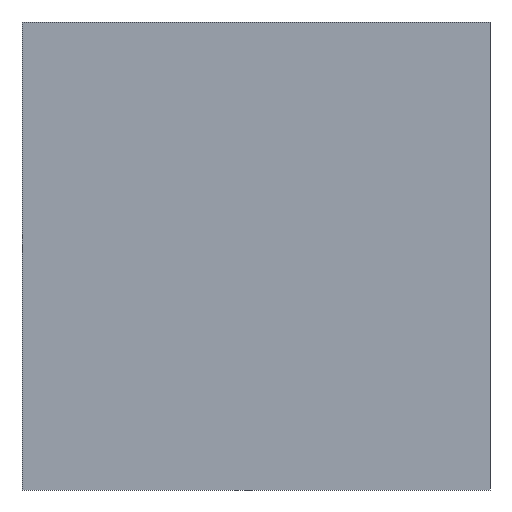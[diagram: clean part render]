
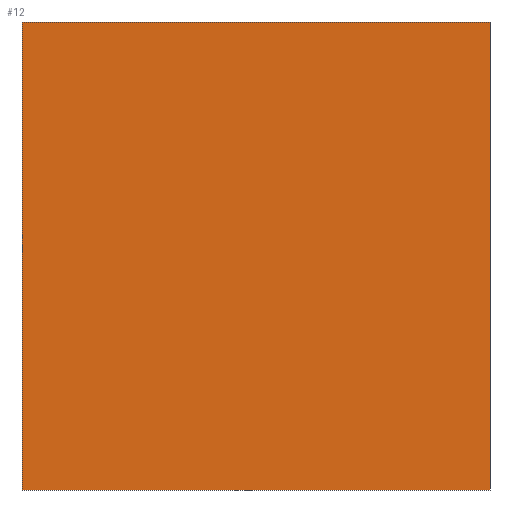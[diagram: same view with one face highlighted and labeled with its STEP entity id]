
A CAD part, front view. The second image highlights one B-rep face of the part: STEP entity #12.
In plain terms, the highlighted planar face has unit normal (0, -1, 0).
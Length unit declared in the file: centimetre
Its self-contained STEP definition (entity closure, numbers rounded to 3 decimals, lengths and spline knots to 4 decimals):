
#4 = DIRECTION ( 'NONE',  ( 0., 0., -1. ) ) ;
#7 = DIRECTION ( 'NONE',  ( 0., 0., -1. ) ) ;
#12 = ADVANCED_FACE ( 'NONE', ( #432 ), #283, .F. ) ;
#36 = VERTEX_POINT ( 'NONE', #253 ) ;
#57 = VERTEX_POINT ( 'NONE', #293 ) ;
#66 = VERTEX_POINT ( 'NONE', #551 ) ;
#92 = EDGE_CURVE ( 'NONE', #57, #66, #203, .T. ) ;
#114 = CARTESIAN_POINT ( 'NONE',  ( 0., 0., 0. ) ) ;
#168 = ORIENTED_EDGE ( 'NONE', *, *, #92, .T. ) ;
#184 = LINE ( 'NONE', #368, #533 ) ;
#199 = EDGE_LOOP ( 'NONE', ( #168, #291, #206, #250 ) ) ;
#200 = DIRECTION ( 'NONE',  ( 0., 0., 1. ) ) ;
#203 = LINE ( 'NONE', #114, #287 ) ;
#206 = ORIENTED_EDGE ( 'NONE', *, *, #355, .F. ) ;
#228 = DIRECTION ( 'NONE',  ( 1., 0., 0. ) ) ;
#233 = EDGE_CURVE ( 'NONE', #36, #57, #531, .T. ) ;
#250 = ORIENTED_EDGE ( 'NONE', *, *, #233, .T. ) ;
#253 = CARTESIAN_POINT ( 'NONE',  ( 0., 0., 1000. ) ) ;
#279 = CARTESIAN_POINT ( 'NONE',  ( 0., 0., 1000. ) ) ;
#283 = PLANE ( 'NONE',  #534 ) ;
#287 = VECTOR ( 'NONE', #386, 100. ) ;
#291 = ORIENTED_EDGE ( 'NONE', *, *, #313, .F. ) ;
#293 = CARTESIAN_POINT ( 'NONE',  ( 0., 0., 0. ) ) ;
#307 = CARTESIAN_POINT ( 'NONE',  ( 0., 0., 1000. ) ) ;
#313 = EDGE_CURVE ( 'NONE', #409, #66, #184, .T. ) ;
#355 = EDGE_CURVE ( 'NONE', #36, #409, #542, .T. ) ;
#362 = CARTESIAN_POINT ( 'NONE',  ( 0., 0., 1000. ) ) ;
#368 = CARTESIAN_POINT ( 'NONE',  ( 1000., 0., 1000. ) ) ;
#386 = DIRECTION ( 'NONE',  ( 1., 0., 0. ) ) ;
#401 = VECTOR ( 'NONE', #4, 100. ) ;
#409 = VERTEX_POINT ( 'NONE', #472 ) ;
#432 = FACE_OUTER_BOUND ( 'NONE', #199, .T. ) ;
#442 = VECTOR ( 'NONE', #228, 100. ) ;
#465 = DIRECTION ( 'NONE',  ( 0., 1., 0. ) ) ;
#472 = CARTESIAN_POINT ( 'NONE',  ( 1000., 0., 1000. ) ) ;
#531 = LINE ( 'NONE', #307, #401 ) ;
#533 = VECTOR ( 'NONE', #7, 100. ) ;
#534 = AXIS2_PLACEMENT_3D ( 'NONE', #279, #465, #200 ) ;
#542 = LINE ( 'NONE', #362, #442 ) ;
#551 = CARTESIAN_POINT ( 'NONE',  ( 1000., 0., 0. ) ) ;
